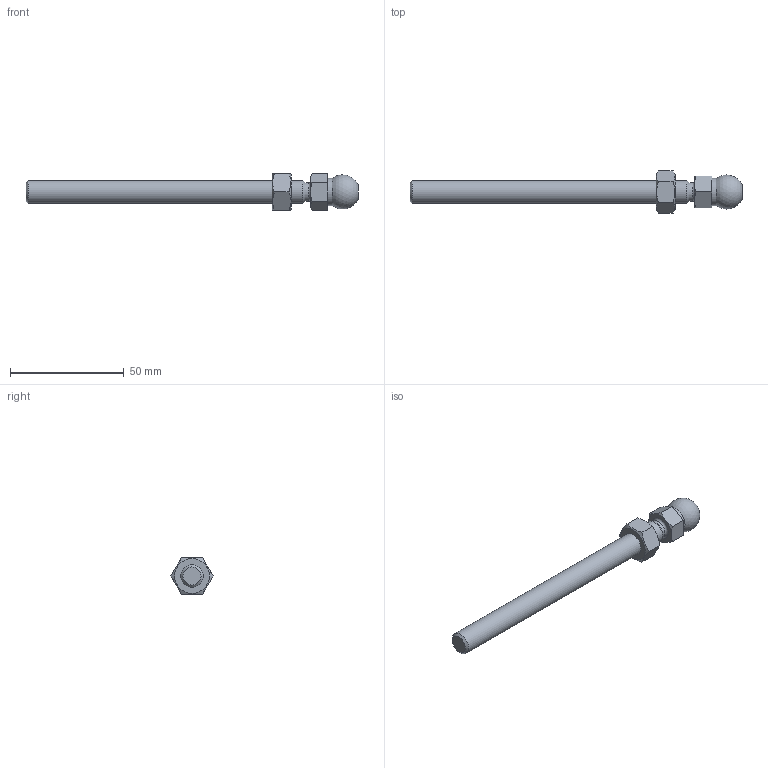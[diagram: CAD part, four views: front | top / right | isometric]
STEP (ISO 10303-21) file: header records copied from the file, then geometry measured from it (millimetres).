
FILE_DESCRIPTION(('STEP AP203'), '1');
FILE_NAME('A00020.110125', '', ('UNSPECIFIED'), ('UNSPECIFIED'), 'C3D Converter', 'C3D Toolkit', '');
FILE_SCHEMA(('CONFIG_CONTROL_DESIGN'));
Length unit declared in the file: millimetre
Products named in the file (2): A00020.110125
Assembly tree (1 placements, depth 2):
  A00020.110125
    (unnamed)
Bounding box: 145.8 x 18.48 x 16.17 mm (x, y, z)
Volume: 14149.6 mm3; surface area: 6095.8 mm2
Topology: 2 solids, 2 shells, 36 faces, 75 edges, 45 vertices
Faces by surface type: plane 18, cone 12, cylinder 4, sphere 1, torus 1
Full cylindrical faces by diameter (mm): 8 x1, 8.376 x1, 10 x1, 12 x1
Entity records: 1785 total; most frequent: CARTESIAN_POINT 1002, DIRECTION 136, ORIENTED_EDGE 126, EDGE_CURVE 63, AXIS2_PLACEMENT_3D 59, EDGE_LOOP 52, VERTEX_POINT 45, ADVANCED_FACE 36
